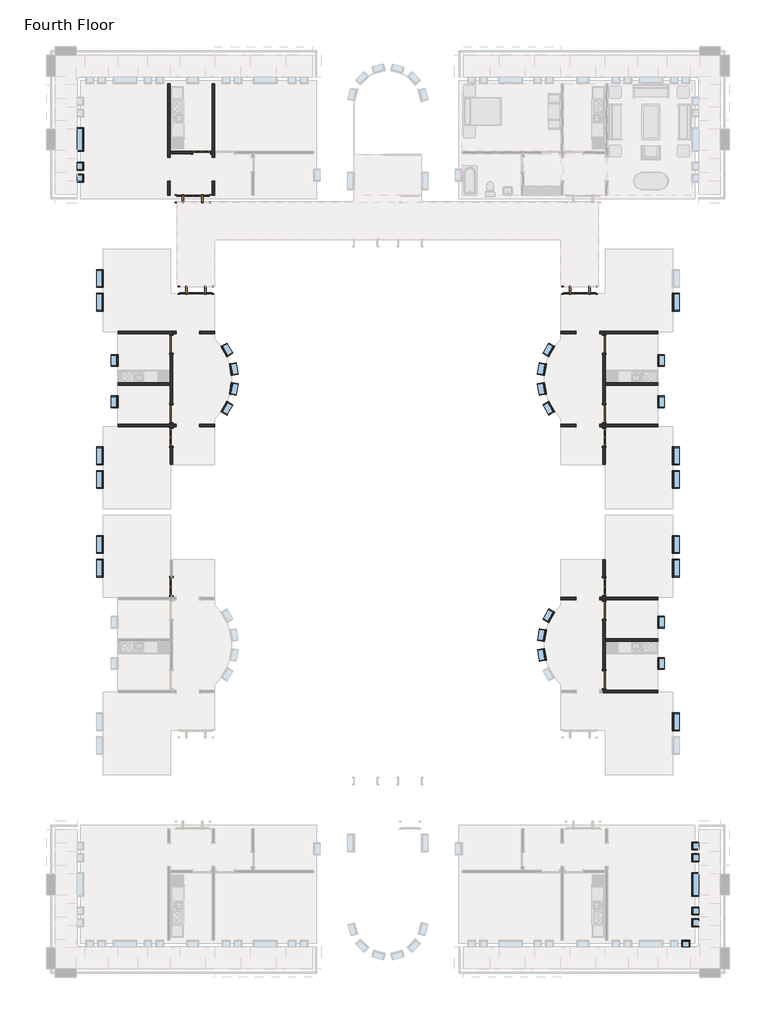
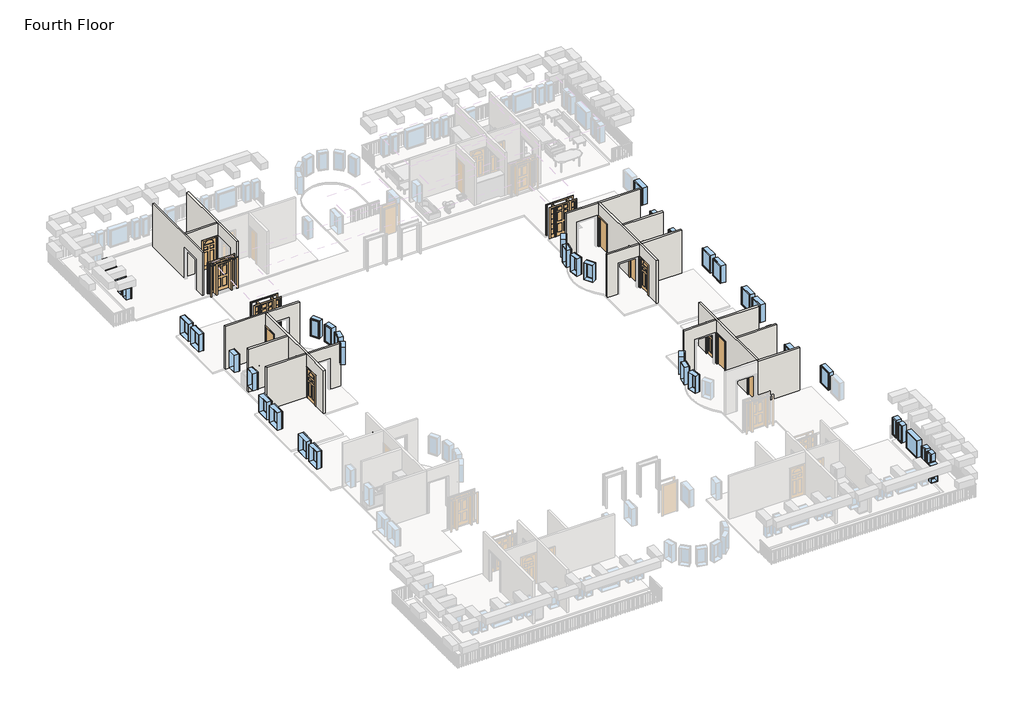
# One storey, part 2 of 5: 38 windows, 20 walls, 14 doors.
"""IFC4 building model written with IfcOpenShell, lengths in millimetres."""

from ifc_helpers import new_model, si_unit, frame, origin, place, context, project, spatial, polyline, outline, extrude, faceted_brep, transform, mapped, element, save
from components import door_829da954, door_2e3b4da2, door_a1797ceb, door_a3eb833a, door_dba5aa2e, door_ffdb1193, window_da97879f, window_d61ef850, window_60baf983, window_ed80354a, window_15c49d37, window_0e2fc6ce, window_d89bf842

model = new_model("IFC4")

# Units and contexts
model_context = context("Model", 3, world=origin())
ifc_project = project(units=[si_unit("LENGTHUNIT", "METRE", prefix="MILLI")], contexts=[model_context])

# Site, building, storey
site = spatial("IfcSite", under=ifc_project)
building = spatial("IfcBuilding", under=site)
storey = spatial("IfcBuildingStorey", under=building, Name="Fourth Floor", Elevation=9144.0)

# Doors
placement = place(None, origin())
door_shape = door_829da954(model_context)
element("IfcDoor", 1, ObjectType="Single-Decorative 2 : 36\" x 84\"", at=placement, inside=storey, context=model_context, shape_type="MappedRepresentation", body=[
    mapped(door_shape, transform((-3900.4589563, -7954.4808133, 9144.0), x_axis=(0.0, 1.0, 0.0), y_axis=(-1.0, 0.0, 0.0), z_axis=(0.0, 0.0, 1.0))),
])
element("IfcDoor", 2, ObjectType="Single-Decorative 2 : 36\" x 84\"", at=placement, inside=storey, context=model_context, shape_type="MappedRepresentation", body=[
    mapped(door_shape, transform((-26223.8839563, -15653.8558133, 9144.0), x_axis=(0.0, -1.0, 0.0), y_axis=(1.0, 0.0, 0.0), z_axis=(0.0, 0.0, 1.0))),
])
door_2_shape = door_2e3b4da2(model_context)
element("IfcDoor", 3, ObjectType="Single-Decorative 2 : 36\" x 84\"", at=placement, inside=storey, context=model_context, shape_type="MappedRepresentation", body=[
    mapped(door_2_shape, transform((-24674.4839563, 6723.5441867, 9144.0), x_axis=(1.0, 0.0, 0.0), y_axis=(0.0, 1.0, 0.0), z_axis=(0.0, 0.0, 1.0))),
])
element("IfcDoor", 4, ObjectType="Single-Decorative 2 : 36\" x 84\"", at=placement, inside=storey, context=model_context, shape_type="MappedRepresentation", body=[
    mapped(door_2_shape, transform((-26223.8839563, -7954.4808133, 9144.0), x_axis=(0.0, 1.0, 0.0), y_axis=(-1.0, 0.0, 0.0), z_axis=(0.0, 0.0, 1.0))),
])
element("IfcDoor", 5, ObjectType="Single-Decorative 2 : 36\" x 84\"", at=placement, inside=storey, context=model_context, shape_type="MappedRepresentation", body=[
    mapped(door_2_shape, transform((-3900.4589563, -15653.8558133, 9144.0), x_axis=(0.0, -1.0, 0.0), y_axis=(1.0, 0.0, 0.0), z_axis=(0.0, 0.0, 1.0))),
])
door_3_shape = door_a1797ceb(model_context)
element("IfcDoor", 6, ObjectType="Single-Flush : 36\" x 84\"", at=placement, inside=storey, context=model_context, shape_type="MappedRepresentation", body=[
    mapped(door_3_shape, transform((-3900.4589563, -6735.2808133, 9144.0), x_axis=(0.0, -1.0, 0.0), y_axis=(1.0, 0.0, 0.0), z_axis=(0.0, 0.0, 1.0))),
])
element("IfcDoor", 7, ObjectType="Single-Flush : 36\" x 84\"", at=placement, inside=storey, context=model_context, shape_type="MappedRepresentation", body=[
    mapped(door_3_shape, transform((-26223.8839563, -3157.0558133, 9144.0), x_axis=(0.0, 1.0, 0.0), y_axis=(-1.0, 0.0, 0.0), z_axis=(0.0, 0.0, 1.0))),
])
element("IfcDoor", 8, ObjectType="Single-Flush : 36\" x 84\"", at=placement, inside=storey, context=model_context, shape_type="MappedRepresentation", body=[
    mapped(door_3_shape, transform((-3900.4589563, -20451.2808133, 9144.0), x_axis=(0.0, -1.0, 0.0), y_axis=(1.0, 0.0, 0.0), z_axis=(0.0, 0.0, 1.0))),
])
door_4_shape = door_a3eb833a(model_context)
element("IfcDoor", 9, ObjectType="Single-Flush : 36\" x 84\"", at=placement, inside=storey, context=model_context, shape_type="MappedRepresentation", body=[
    mapped(door_4_shape, transform((-3900.4589563, -3157.0558133, 9144.0), x_axis=(0.0, 1.0, 0.0), y_axis=(-1.0, 0.0, 0.0), z_axis=(0.0, 0.0, 1.0))),
])
element("IfcDoor", 10, ObjectType="Single-Flush : 36\" x 84\"", at=placement, inside=storey, context=model_context, shape_type="MappedRepresentation", body=[
    mapped(door_4_shape, transform((-26223.8839563, -6735.2808133, 9144.0), x_axis=(0.0, -1.0, 0.0), y_axis=(1.0, 0.0, 0.0), z_axis=(0.0, 0.0, 1.0))),
])
element("IfcDoor", 11, ObjectType="Single-Flush : 36\" x 84\"", at=placement, inside=storey, context=model_context, shape_type="MappedRepresentation", body=[
    mapped(door_4_shape, transform((-3900.4589563, -16873.0558133, 9144.0), x_axis=(0.0, 1.0, 0.0), y_axis=(-1.0, 0.0, 0.0), z_axis=(0.0, 0.0, 1.0))),
])
door_5_shape = door_dba5aa2e(model_context)
element("IfcDoor", 12, ObjectType="Single-Raised Panel with Sidelights : 36\" x 84\"", at=placement, inside=storey, context=model_context, shape_type="MappedRepresentation", body=[
    mapped(door_5_shape, transform((-24968.1714563, -374.1683133, 9144.0), x_axis=(1.0, 0.0, 0.0), y_axis=(0.0, 1.0, 0.0), z_axis=(0.0, 0.0, 1.0))),
])
door_6_shape = door_ffdb1193(model_context)
element("IfcDoor", 13, ObjectType="Single-Raised Panel with Sidelights : 36\" x 84\"", at=placement, inside=storey, context=model_context, shape_type="MappedRepresentation", body=[
    mapped(door_6_shape, transform((-5156.1714563, -374.1683133, 9144.0), x_axis=(-1.0, 0.0, 0.0), y_axis=(0.0, -1.0, 0.0), z_axis=(0.0, 0.0, 1.0))),
])
element("IfcDoor", 14, ObjectType="Single-Raised Panel with Sidelights : 36\" x 84\"", at=placement, inside=storey, context=model_context, shape_type="MappedRepresentation", body=[
    mapped(door_6_shape, transform((-25131.6839563, 4350.2316867, 9144.0), x_axis=(1.0, 0.0, 0.0), y_axis=(0.0, 1.0, 0.0), z_axis=(0.0, 0.0, 1.0))),
])

# Walls
element("IfcWall", 15, ObjectType="Interior - 5\" Partition (2-hr)", at=placement, inside=storey, context=model_context, shape_type="Brep", body=[
    faceted_brep([(-1141.3839563, -2483.9558133, 9144.0), (-3963.9589563, -2483.9558133, 9144.0), (-3963.9589563, -2483.9558133, 12192.0), (-1141.3839563, -2483.9558133, 12192.0), (-1141.3839563, -2610.9558133, 9144.0), (-1141.3839563, -2610.9558133, 12192.0), (-3836.9589563, -2610.9558133, 12192.0), (-3963.9589563, -2610.9558133, 12192.0), (-3963.9589563, -2610.9558133, 9144.0), (-3836.9589563, -2610.9558133, 9144.0)], [[[0, 1, 2, 3]], [[4, 5, 6, 7, 8, 9]], [[1, 0, 4, 9, 8]], [[3, 2, 7, 6, 5]], [[2, 1, 8, 7]], [[0, 3, 5, 4]]]),
])
element("IfcWall", 16, ObjectType="Interior - 5\" Partition (2-hr)", at=placement, inside=storey, context=model_context, shape_type="Brep", body=[
    faceted_brep([(-3836.9589563, -7497.2808133, 11277.6), (-3836.9589563, -7497.2808133, 9144.0), (-3836.9589563, -7408.3808133, 9144.0), (-3836.9589563, -7281.3808133, 9144.0), (-3836.9589563, -7192.4808133, 9144.0), (-3836.9589563, -7192.4808133, 11277.6), (-3836.9589563, -6278.0808133, 11277.6), (-3836.9589563, -6278.0808133, 9144.0), (-3836.9589563, -5274.7808133, 9144.0), (-3836.9589563, -5147.7808133, 9144.0), (-3836.9589563, -3614.2558133, 9144.0), (-3836.9589563, -3614.2558133, 11277.6), (-3836.9589563, -2699.8558133, 11277.6), (-3836.9589563, -2699.8558133, 9144.0), (-3836.9589563, -2610.9558133, 9144.0), (-3836.9589563, -2610.9558133, 12192.0), (-3836.9589563, -5147.7808133, 12192.0), (-3836.9589563, -5274.7808133, 12192.0), (-3836.9589563, -7281.3808133, 12192.0), (-3836.9589563, -7408.3808133, 12192.0), (-3836.9589563, -9341.9558133, 12192.0), (-3836.9589563, -9341.9558133, 9144.0), (-3836.9589563, -8411.6808133, 9144.0), (-3836.9589563, -8411.6808133, 11277.6), (-3963.9589563, -7192.4808133, 9144.0), (-3963.9589563, -7281.3808133, 9144.0), (-3963.9589563, -7408.3808133, 9144.0), (-3963.9589563, -7497.2808133, 9144.0), (-3963.9589563, -7497.2808133, 11277.6), (-3963.9589563, -8411.6808133, 11277.6), (-3963.9589563, -8411.6808133, 9144.0), (-3963.9589563, -9341.9558133, 9144.0), (-3963.9589563, -9341.9558133, 12192.0), (-3963.9589563, -7408.3808133, 12192.0), (-3963.9589563, -7281.3808133, 12192.0), (-3963.9589563, -2610.9558133, 12192.0), (-3963.9589563, -2610.9558133, 9144.0), (-3963.9589563, -2699.8558133, 9144.0), (-3963.9589563, -2699.8558133, 11277.6), (-3963.9589563, -3614.2558133, 11277.6), (-3963.9589563, -3614.2558133, 9144.0), (-3963.9589563, -6278.0808133, 9144.0), (-3963.9589563, -6278.0808133, 11277.6), (-3963.9589563, -7192.4808133, 11277.6)], [[[0, 1, 2, 3, 4, 5, 6, 7, 8, 9, 10, 11, 12, 13, 14, 15, 16, 17, 18, 19, 20, 21, 22, 23]], [[24, 25, 26, 27, 28, 29, 30, 31, 32, 33, 34, 35, 36, 37, 38, 39, 40, 41, 42, 43]], [[14, 13, 37, 36]], [[4, 3, 2, 1, 27, 26, 25, 24]], [[41, 40, 10, 9, 8, 7]], [[22, 21, 31, 30]], [[20, 19, 18, 17, 16, 15, 35, 34, 33, 32]], [[15, 14, 36, 35]], [[21, 20, 32, 31]], [[38, 37, 13, 12]], [[39, 38, 12, 11]], [[40, 39, 11, 10]], [[5, 4, 24, 43]], [[6, 5, 43, 42]], [[7, 6, 42, 41]], [[28, 27, 1, 0]], [[29, 28, 0, 23]], [[30, 29, 23, 22]]]),
])
element("IfcWall", 17, ObjectType="Interior - 5\" Partition (2-hr)", at=placement, inside=storey, context=model_context, shape_type="SweptSolid", body=[
    extrude(outline(polyline([(-3836.9589563, -7281.3808133), (-1141.3839563, -7281.3808133), (-1141.3839563, -7408.3808133), (-3836.9589563, -7408.3808133), (-3836.9589563, -7281.3808133)])), frame((0.0, 0.0, 9144.0), z_axis=(0.0, 0.0, 1.0), x_axis=(1.0, 0.0, 0.0)), (0.0, 0.0, 1.0), 3048.0),
])
element("IfcWall", 18, ObjectType="Interior - 5\" Partition (2-hr)", at=placement, inside=storey, context=model_context, shape_type="SweptSolid", body=[
    extrude(outline(polyline([(-1141.3839563, -5274.7808133), (-3836.9589563, -5274.7808133), (-3836.9589563, -5147.7808133), (-1141.3839563, -5147.7808133), (-1141.3839563, -5274.7808133)])), frame((0.0, 0.0, 9144.0), z_axis=(0.0, 0.0, 1.0), x_axis=(1.0, 0.0, 0.0)), (0.0, 0.0, 1.0), 3048.0),
])
element("IfcWall", 19, ObjectType="Interior - 5\" Partition (2-hr)", at=placement, inside=storey, context=model_context, shape_type="SweptSolid", body=[
    extrude(outline(polyline([(9144.0, -6122.9589563), (9144.0, -5348.2589563), (11277.6, -5348.2589563), (11277.6, -4129.0589563), (9144.0, -4129.0589563), (9144.0, -3963.9589563), (12192.0, -3963.9589563), (12192.0, -6122.9589563), (9144.0, -6122.9589563)])), frame((0.0, -7408.3808133, 0.0), z_axis=(0.0, 1.0, 0.0), x_axis=(0.0, 0.0, 1.0)), (0.0, 0.0, 1.0), 127.0),
])
element("IfcWall", 20, ObjectType="Interior - 5\" Partition (2-hr)", at=placement, inside=storey, context=model_context, shape_type="SweptSolid", body=[
    extrude(outline(polyline([(11277.6, -4129.0589563), (9144.0, -4129.0589563), (9144.0, -3963.9589563), (12192.0, -3963.9589563), (12192.0, -6122.9589563), (9144.0, -6122.9589563), (9144.0, -5348.2589563), (11277.6, -5348.2589563), (11277.6, -4129.0589563)])), frame((0.0, -2610.9558133, 0.0), z_axis=(0.0, 1.0, 0.0), x_axis=(0.0, 0.0, 1.0)), (0.0, 0.0, 1.0), 127.0),
])
element("IfcWall", 21, ObjectType="Interior - 5\" Partition (2-hr)", at=placement, inside=storey, context=model_context, shape_type="Brep", body=[
    faceted_brep([(-26414.3839563, 10270.0191867, 9144.0), (-26414.3839563, 6483.8316867, 9144.0), (-26414.3839563, 6483.8316867, 11277.6), (-26414.3839563, 5264.6316867, 11277.6), (-26414.3839563, 5264.6316867, 9144.0), (-26414.3839563, 4526.4441867, 9144.0), (-26414.3839563, 4526.4441867, 12192.0), (-26414.3839563, 10270.0191867, 12192.0), (-26287.3839563, 6483.8316867, 11277.6), (-26287.3839563, 6483.8316867, 9144.0), (-26287.3839563, 6660.0441867, 9144.0), (-26287.3839563, 6787.0441867, 9144.0), (-26287.3839563, 10270.0191867, 9144.0), (-26287.3839563, 10270.0191867, 12192.0), (-26287.3839563, 6787.0441867, 12192.0), (-26287.3839563, 6660.0441867, 12192.0), (-26287.3839563, 4526.4441867, 12192.0), (-26287.3839563, 4526.4441867, 9144.0), (-26287.3839563, 5264.6316867, 9144.0), (-26287.3839563, 5264.6316867, 11277.6)], [[[0, 1, 2, 3, 4, 5, 6, 7]], [[8, 9, 10, 11, 12, 13, 14, 15, 16, 17, 18, 19]], [[12, 11, 10, 9, 1, 0]], [[18, 17, 5, 4]], [[7, 6, 16, 15, 14, 13]], [[0, 7, 13, 12]], [[6, 5, 17, 16]], [[4, 3, 19, 18]], [[2, 1, 9, 8]], [[3, 2, 8, 19]]]),
])
element("IfcWall", 22, ObjectType="Interior - 5\" Partition (2-hr)", at=placement, inside=storey, context=model_context, shape_type="Brep", body=[
    faceted_brep([(-24128.3839563, 5264.6316867, 11277.6), (-24128.3839563, 5264.6316867, 9144.0), (-24128.3839563, 4526.4441867, 9144.0), (-24128.3839563, 4526.4441867, 12192.0), (-24128.3839563, 6660.0441867, 12192.0), (-24128.3839563, 6787.0441867, 12192.0), (-24128.3839563, 10270.0191867, 12192.0), (-24128.3839563, 10270.0191867, 9144.0), (-24128.3839563, 6787.0441867, 9144.0), (-24128.3839563, 6660.0441867, 9144.0), (-24128.3839563, 6483.8316867, 9144.0), (-24128.3839563, 6483.8316867, 11277.6), (-24001.3839563, 4526.4441867, 9144.0), (-24001.3839563, 5264.6316867, 9144.0), (-24001.3839563, 5264.6316867, 11277.6), (-24001.3839563, 6483.8316867, 11277.6), (-24001.3839563, 6483.8316867, 9144.0), (-24001.3839563, 6660.0441867, 9144.0), (-24001.3839563, 6787.0441867, 9144.0), (-24001.3839563, 10270.0191867, 9144.0), (-24001.3839563, 10270.0191867, 12192.0), (-24001.3839563, 6787.0441867, 12192.0), (-24001.3839563, 6660.0441867, 12192.0), (-24001.3839563, 4526.4441867, 12192.0)], [[[0, 1, 2, 3, 4, 5, 6, 7, 8, 9, 10, 11]], [[12, 13, 14, 15, 16, 17, 18, 19, 20, 21, 22, 23]], [[2, 1, 13, 12]], [[10, 9, 8, 7, 19, 18, 17, 16]], [[6, 5, 4, 3, 23, 22, 21, 20]], [[7, 6, 20, 19]], [[3, 2, 12, 23]], [[16, 15, 11, 10]], [[14, 13, 1, 0]], [[15, 14, 0, 11]]]),
])
element("IfcWall", 23, ObjectType="Interior - 5\" Partition (2-hr)", at=placement, inside=storey, context=model_context, shape_type="SweptSolid", body=[
    extrude(outline(polyline([(11277.6, -24217.2839563), (9144.0, -24217.2839563), (9144.0, -24128.3839563), (12192.0, -24128.3839563), (12192.0, -26287.3839563), (9144.0, -26287.3839563), (9144.0, -25131.6839563), (11277.6, -25131.6839563), (11277.6, -24217.2839563)])), frame((0.0, 6660.0441867, 0.0), z_axis=(0.0, 1.0, 0.0), x_axis=(0.0, 0.0, 1.0)), (0.0, 0.0, 1.0), 127.0),
])
element("IfcWall", 24, ObjectType="Interior - 5\" Partition (2-hr)", at=placement, inside=storey, context=model_context, shape_type="Brep", body=[
    faceted_brep([(-28982.9589563, -2610.9558133, 9144.0), (-26287.3839563, -2610.9558133, 9144.0), (-26160.3839563, -2610.9558133, 9144.0), (-26160.3839563, -2610.9558133, 12192.0), (-26287.3839563, -2610.9558133, 12192.0), (-28982.9589563, -2610.9558133, 12192.0), (-28982.9589563, -2483.9558133, 9144.0), (-28982.9589563, -2483.9558133, 12192.0), (-26160.3839563, -2483.9558133, 12192.0), (-26160.3839563, -2483.9558133, 9144.0)], [[[0, 1, 2, 3, 4, 5]], [[6, 7, 8, 9]], [[2, 1, 0, 6, 9]], [[5, 4, 3, 8, 7]], [[3, 2, 9, 8]], [[0, 5, 7, 6]]]),
])
element("IfcWall", 25, ObjectType="Interior - 5\" Partition (2-hr)", at=placement, inside=storey, context=model_context, shape_type="Brep", body=[
    faceted_brep([(-26160.3839563, -7497.2808133, 11277.6), (-26160.3839563, -7497.2808133, 9144.0), (-26160.3839563, -7408.3808133, 9144.0), (-26160.3839563, -7281.3808133, 9144.0), (-26160.3839563, -7192.4808133, 9144.0), (-26160.3839563, -7192.4808133, 11277.6), (-26160.3839563, -6278.0808133, 11277.6), (-26160.3839563, -6278.0808133, 9144.0), (-26160.3839563, -3614.2558133, 9144.0), (-26160.3839563, -3614.2558133, 11277.6), (-26160.3839563, -2699.8558133, 11277.6), (-26160.3839563, -2699.8558133, 9144.0), (-26160.3839563, -2610.9558133, 9144.0), (-26160.3839563, -2610.9558133, 12192.0), (-26160.3839563, -7281.3808133, 12192.0), (-26160.3839563, -7408.3808133, 12192.0), (-26160.3839563, -9341.9558133, 12192.0), (-26160.3839563, -9341.9558133, 9144.0), (-26160.3839563, -8411.6808133, 9144.0), (-26160.3839563, -8411.6808133, 11277.6), (-26287.3839563, -7192.4808133, 9144.0), (-26287.3839563, -7281.3808133, 9144.0), (-26287.3839563, -7408.3808133, 9144.0), (-26287.3839563, -7497.2808133, 9144.0), (-26287.3839563, -7497.2808133, 11277.6), (-26287.3839563, -8411.6808133, 11277.6), (-26287.3839563, -8411.6808133, 9144.0), (-26287.3839563, -9341.9558133, 9144.0), (-26287.3839563, -9341.9558133, 12192.0), (-26287.3839563, -7408.3808133, 12192.0), (-26287.3839563, -7281.3808133, 12192.0), (-26287.3839563, -5274.7808133, 12192.0), (-26287.3839563, -5147.7808133, 12192.0), (-26287.3839563, -2610.9558133, 12192.0), (-26287.3839563, -2610.9558133, 9144.0), (-26287.3839563, -2699.8558133, 9144.0), (-26287.3839563, -2699.8558133, 11277.6), (-26287.3839563, -3614.2558133, 11277.6), (-26287.3839563, -3614.2558133, 9144.0), (-26287.3839563, -5147.7808133, 9144.0), (-26287.3839563, -5274.7808133, 9144.0), (-26287.3839563, -6278.0808133, 9144.0), (-26287.3839563, -6278.0808133, 11277.6), (-26287.3839563, -7192.4808133, 11277.6)], [[[0, 1, 2, 3, 4, 5, 6, 7, 8, 9, 10, 11, 12, 13, 14, 15, 16, 17, 18, 19]], [[20, 21, 22, 23, 24, 25, 26, 27, 28, 29, 30, 31, 32, 33, 34, 35, 36, 37, 38, 39, 40, 41, 42, 43]], [[12, 11, 35, 34]], [[4, 3, 2, 1, 23, 22, 21, 20]], [[41, 40, 39, 38, 8, 7]], [[18, 17, 27, 26]], [[16, 15, 14, 13, 33, 32, 31, 30, 29, 28]], [[13, 12, 34, 33]], [[17, 16, 28, 27]], [[36, 35, 11, 10]], [[37, 36, 10, 9]], [[38, 37, 9, 8]], [[5, 4, 20, 43]], [[6, 5, 43, 42]], [[7, 6, 42, 41]], [[24, 23, 1, 0]], [[25, 24, 0, 19]], [[26, 25, 19, 18]]]),
])
element("IfcWall", 26, ObjectType="Interior - 5\" Partition (2-hr)", at=placement, inside=storey, context=model_context, shape_type="SweptSolid", body=[
    extrude(outline(polyline([(-26287.3839563, -7408.3808133), (-28982.9589563, -7408.3808133), (-28982.9589563, -7281.3808133), (-26287.3839563, -7281.3808133), (-26287.3839563, -7408.3808133)])), frame((0.0, 0.0, 9144.0), z_axis=(0.0, 0.0, 1.0), x_axis=(1.0, 0.0, 0.0)), (0.0, 0.0, 1.0), 3048.0),
])
element("IfcWall", 27, ObjectType="Interior - 5\" Partition (2-hr)", at=placement, inside=storey, context=model_context, shape_type="SweptSolid", body=[
    extrude(outline(polyline([(-28982.9589563, -5147.7808133), (-26287.3839563, -5147.7808133), (-26287.3839563, -5274.7808133), (-28982.9589563, -5274.7808133), (-28982.9589563, -5147.7808133)])), frame((0.0, 0.0, 9144.0), z_axis=(0.0, 0.0, 1.0), x_axis=(1.0, 0.0, 0.0)), (0.0, 0.0, 1.0), 3048.0),
])
element("IfcWall", 28, ObjectType="Interior - 5\" Partition (2-hr)", at=placement, inside=storey, context=model_context, shape_type="SweptSolid", body=[
    extrude(outline(polyline([(11277.6, -24776.0839563), (9144.0, -24776.0839563), (9144.0, -24001.3839563), (12192.0, -24001.3839563), (12192.0, -26160.3839563), (9144.0, -26160.3839563), (9144.0, -25995.2839563), (11277.6, -25995.2839563), (11277.6, -24776.0839563)])), frame((0.0, -7408.3808133, 0.0), z_axis=(0.0, 1.0, 0.0), x_axis=(0.0, 0.0, 1.0)), (0.0, 0.0, 1.0), 127.0),
])
element("IfcWall", 29, ObjectType="Interior - 5\" Partition (2-hr)", at=placement, inside=storey, context=model_context, shape_type="SweptSolid", body=[
    extrude(outline(polyline([(9144.0, -26160.3839563), (9144.0, -25995.2839563), (11277.6, -25995.2839563), (11277.6, -24776.0839563), (9144.0, -24776.0839563), (9144.0, -24001.3839563), (12192.0, -24001.3839563), (12192.0, -26160.3839563), (9144.0, -26160.3839563)])), frame((0.0, -2610.9558133, 0.0), z_axis=(0.0, 1.0, 0.0), x_axis=(0.0, 0.0, 1.0)), (0.0, 0.0, 1.0), 127.0),
])
element("IfcWall", 30, ObjectType="Interior - 5\" Partition (2-hr)", at=placement, inside=storey, context=model_context, shape_type="Brep", body=[
    faceted_brep([(-1141.3839563, -20997.3808133, 9144.0), (-3836.9589563, -20997.3808133, 9144.0), (-3963.9589563, -20997.3808133, 9144.0), (-3963.9589563, -20997.3808133, 12192.0), (-3836.9589563, -20997.3808133, 12192.0), (-1141.3839563, -20997.3808133, 12192.0), (-1141.3839563, -21124.3808133, 9144.0), (-1141.3839563, -21124.3808133, 12192.0), (-3963.9589563, -21124.3808133, 12192.0), (-3963.9589563, -21124.3808133, 9144.0)], [[[0, 1, 2, 3, 4, 5]], [[6, 7, 8, 9]], [[2, 1, 0, 6, 9]], [[5, 4, 3, 8, 7]], [[3, 2, 9, 8]], [[0, 5, 7, 6]]]),
])
element("IfcWall", 31, ObjectType="Interior - 5\" Partition (2-hr)", at=placement, inside=storey, context=model_context, shape_type="Brep", body=[
    faceted_brep([(-3963.9589563, -16111.0558133, 11277.6), (-3963.9589563, -16111.0558133, 9144.0), (-3963.9589563, -16199.9558133, 9144.0), (-3963.9589563, -16326.9558133, 9144.0), (-3963.9589563, -16415.8558133, 9144.0), (-3963.9589563, -16415.8558133, 11277.6), (-3963.9589563, -17330.2558133, 11277.6), (-3963.9589563, -17330.2558133, 9144.0), (-3963.9589563, -19994.0808133, 9144.0), (-3963.9589563, -19994.0808133, 11277.6), (-3963.9589563, -20908.4808133, 11277.6), (-3963.9589563, -20908.4808133, 9144.0), (-3963.9589563, -20997.3808133, 9144.0), (-3963.9589563, -20997.3808133, 12192.0), (-3963.9589563, -16326.9558133, 12192.0), (-3963.9589563, -16199.9558133, 12192.0), (-3963.9589563, -14266.3808133, 12192.0), (-3963.9589563, -14266.3808133, 9144.0), (-3963.9589563, -15196.6558133, 9144.0), (-3963.9589563, -15196.6558133, 11277.6), (-3836.9589563, -16415.8558133, 9144.0), (-3836.9589563, -16326.9558133, 9144.0), (-3836.9589563, -16199.9558133, 9144.0), (-3836.9589563, -16111.0558133, 9144.0), (-3836.9589563, -16111.0558133, 11277.6), (-3836.9589563, -15196.6558133, 11277.6), (-3836.9589563, -15196.6558133, 9144.0), (-3836.9589563, -14266.3808133, 9144.0), (-3836.9589563, -14266.3808133, 12192.0), (-3836.9589563, -16199.9558133, 12192.0), (-3836.9589563, -16326.9558133, 12192.0), (-3836.9589563, -18333.5558133, 12192.0), (-3836.9589563, -18460.5558133, 12192.0), (-3836.9589563, -20997.3808133, 12192.0), (-3836.9589563, -20997.3808133, 9144.0), (-3836.9589563, -20908.4808133, 9144.0), (-3836.9589563, -20908.4808133, 11277.6), (-3836.9589563, -19994.0808133, 11277.6), (-3836.9589563, -19994.0808133, 9144.0), (-3836.9589563, -18460.5558133, 9144.0), (-3836.9589563, -18333.5558133, 9144.0), (-3836.9589563, -17330.2558133, 9144.0), (-3836.9589563, -17330.2558133, 11277.6), (-3836.9589563, -16415.8558133, 11277.6)], [[[0, 1, 2, 3, 4, 5, 6, 7, 8, 9, 10, 11, 12, 13, 14, 15, 16, 17, 18, 19]], [[20, 21, 22, 23, 24, 25, 26, 27, 28, 29, 30, 31, 32, 33, 34, 35, 36, 37, 38, 39, 40, 41, 42, 43]], [[12, 11, 35, 34]], [[4, 3, 2, 1, 23, 22, 21, 20]], [[41, 40, 39, 38, 8, 7]], [[18, 17, 27, 26]], [[16, 15, 14, 13, 33, 32, 31, 30, 29, 28]], [[13, 12, 34, 33]], [[17, 16, 28, 27]], [[36, 35, 11, 10]], [[37, 36, 10, 9]], [[38, 37, 9, 8]], [[5, 4, 20, 43]], [[6, 5, 43, 42]], [[7, 6, 42, 41]], [[24, 23, 1, 0]], [[25, 24, 0, 19]], [[26, 25, 19, 18]]]),
])
element("IfcWall", 32, ObjectType="Interior - 5\" Partition (2-hr)", at=placement, inside=storey, context=model_context, shape_type="SweptSolid", body=[
    extrude(outline(polyline([(-3836.9589563, -16199.9558133), (-1141.3839563, -16199.9558133), (-1141.3839563, -16326.9558133), (-3836.9589563, -16326.9558133), (-3836.9589563, -16199.9558133)])), frame((0.0, 0.0, 9144.0), z_axis=(0.0, 0.0, 1.0), x_axis=(1.0, 0.0, 0.0)), (0.0, 0.0, 1.0), 3048.0),
])
element("IfcWall", 33, ObjectType="Interior - 5\" Partition (2-hr)", at=placement, inside=storey, context=model_context, shape_type="SweptSolid", body=[
    extrude(outline(polyline([(-1141.3839563, -18460.5558133), (-3836.9589563, -18460.5558133), (-3836.9589563, -18333.5558133), (-1141.3839563, -18333.5558133), (-1141.3839563, -18460.5558133)])), frame((0.0, 0.0, 9144.0), z_axis=(0.0, 0.0, 1.0), x_axis=(1.0, 0.0, 0.0)), (0.0, 0.0, 1.0), 3048.0),
])
element("IfcWall", 34, ObjectType="Interior - 5\" Partition (2-hr)", at=placement, inside=storey, context=model_context, shape_type="SweptSolid", body=[
    extrude(outline(polyline([(9144.0, -6122.9589563), (9144.0, -5348.2589563), (11277.6, -5348.2589563), (11277.6, -4129.0589563), (9144.0, -4129.0589563), (9144.0, -3963.9589563), (12192.0, -3963.9589563), (12192.0, -6122.9589563), (9144.0, -6122.9589563)])), frame((0.0, -16326.9558133, 0.0), z_axis=(0.0, 1.0, 0.0), x_axis=(0.0, 0.0, 1.0)), (0.0, 0.0, 1.0), 127.0),
])

# Windows
window_shape = window_da97879f(model_context)
element("IfcWindow", 35, ObjectType="Fixed : 16\" x 48\"", at=placement, inside=storey, context=model_context, shape_type="MappedRepresentation", body=[
    mapped(window_shape, transform((-30922.8839563, 5378.9316867, 9144.0), x_axis=(0.0, -1.0, 0.0), y_axis=(1.0, 0.0, 0.0), z_axis=(0.0, 0.0, 1.0))),
])
element("IfcWindow", 36, ObjectType="Fixed : 16\" x 48\"", at=placement, inside=storey, context=model_context, shape_type="MappedRepresentation", body=[
    mapped(window_shape, transform((-30922.8839563, 5988.5316867, 9144.0), x_axis=(0.0, -1.0, 0.0), y_axis=(1.0, 0.0, 0.0), z_axis=(0.0, 0.0, 1.0))),
])
element("IfcWindow", 37, ObjectType="Fixed : 16\" x 48\"", at=placement, inside=storey, context=model_context, shape_type="MappedRepresentation", body=[
    mapped(window_shape, transform((354.0410437, -34054.5683133, 9144.0), x_axis=(1.0, 0.0, 0.0), y_axis=(0.0, 1.0, 0.0), z_axis=(0.0, 0.0, 1.0))),
])
element("IfcWindow", 38, ObjectType="Fixed : 16\" x 48\"", at=placement, inside=storey, context=model_context, shape_type="MappedRepresentation", body=[
    mapped(window_shape, transform((798.5410437, -28987.2683133, 9144.0), x_axis=(0.0, 1.0, 0.0), y_axis=(-1.0, 0.0, 0.0), z_axis=(0.0, 0.0, 1.0))),
])
element("IfcWindow", 39, ObjectType="Fixed : 16\" x 48\"", at=placement, inside=storey, context=model_context, shape_type="MappedRepresentation", body=[
    mapped(window_shape, transform((798.5410437, -29596.8683133, 9144.0), x_axis=(0.0, 1.0, 0.0), y_axis=(-1.0, 0.0, 0.0), z_axis=(0.0, 0.0, 1.0))),
])
window_2_shape = window_d61ef850(model_context)
element("IfcWindow", 40, ObjectType="Fixed : 16\" x 48\"", at=placement, inside=storey, context=model_context, shape_type="MappedRepresentation", body=[
    mapped(window_2_shape, transform((798.5410437, -33025.8683133, 9144.0), x_axis=(0.0, -1.0, 0.0), y_axis=(1.0, 0.0, 0.0), z_axis=(0.0, 0.0, 1.0))),
])
element("IfcWindow", 41, ObjectType="Fixed : 16\" x 48\"", at=placement, inside=storey, context=model_context, shape_type="MappedRepresentation", body=[
    mapped(window_2_shape, transform((798.5410437, -32416.2683133, 9144.0), x_axis=(0.0, -1.0, 0.0), y_axis=(1.0, 0.0, 0.0), z_axis=(0.0, 0.0, 1.0))),
])
window_3_shape = window_60baf983(model_context)
element("IfcWindow", 42, ObjectType="Fixed : 24\" x 48\"", at=placement, inside=storey, context=model_context, shape_type="MappedRepresentation", body=[
    mapped(window_3_shape, transform((-6775.1467215, -3474.0215337, 9144.0), x_axis=(-0.496191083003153, -0.868213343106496, 0.0), y_axis=(0.868213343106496, -0.496191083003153, 0.0), z_axis=(0.0, 0.0, 1.0))),
])
element("IfcWindow", 43, ObjectType="Fixed : 24\" x 48\"", at=placement, inside=storey, context=model_context, shape_type="MappedRepresentation", body=[
    mapped(window_3_shape, transform((-7118.4751134, -4468.822297, 9144.0), x_axis=(-0.16973229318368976, -0.9854902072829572, 0.0), y_axis=(0.9854902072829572, -0.16973229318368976, 0.0), z_axis=(0.0, 0.0, 1.0))),
])
element("IfcWindow", 44, ObjectType="Fixed : 24\" x 48\"", at=placement, inside=storey, context=model_context, shape_type="MappedRepresentation", body=[
    mapped(window_3_shape, transform((-29159.1714563, -4030.1808133, 9144.0), x_axis=(0.0, -1.0, 0.0), y_axis=(1.0, 0.0, 0.0), z_axis=(0.0, 0.0, 1.0))),
])
element("IfcWindow", 45, ObjectType="Fixed : 24\" x 48\"", at=placement, inside=storey, context=model_context, shape_type="MappedRepresentation", body=[
    mapped(window_3_shape, transform((-29159.1714563, -6163.7808133, 9144.0), x_axis=(0.0, -1.0, 0.0), y_axis=(1.0, 0.0, 0.0), z_axis=(0.0, 0.0, 1.0))),
])
element("IfcWindow", 46, ObjectType="Fixed : 24\" x 48\"", at=placement, inside=storey, context=model_context, shape_type="MappedRepresentation", body=[
    mapped(window_3_shape, transform((-23350.7429238, -6417.4311225, 9144.0), x_axis=(0.49619108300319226, 0.8682133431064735, 0.0), y_axis=(-0.8682133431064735, 0.49619108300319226, 0.0), z_axis=(0.0, 0.0, 1.0))),
])
element("IfcWindow", 47, ObjectType="Fixed : 24\" x 48\"", at=placement, inside=storey, context=model_context, shape_type="MappedRepresentation", body=[
    mapped(window_3_shape, transform((-23007.6234621, -5423.2119495, 9144.0), x_axis=(0.1697322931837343, 0.9854902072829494, 0.0), y_axis=(-0.9854902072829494, 0.1697322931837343, 0.0), z_axis=(0.0, 0.0, 1.0))),
])
element("IfcWindow", 48, ObjectType="Fixed : 24\" x 48\"", at=placement, inside=storey, context=model_context, shape_type="MappedRepresentation", body=[
    mapped(window_3_shape, transform((-965.1714563, -19578.1558133, 9144.0), x_axis=(0.0, 1.0, 0.0), y_axis=(-1.0, 0.0, 0.0), z_axis=(0.0, 0.0, 1.0))),
])
element("IfcWindow", 49, ObjectType="Fixed : 24\" x 48\"", at=placement, inside=storey, context=model_context, shape_type="MappedRepresentation", body=[
    mapped(window_3_shape, transform((-965.1714563, -17444.5558133, 9144.0), x_axis=(0.0, 1.0, 0.0), y_axis=(-1.0, 0.0, 0.0), z_axis=(0.0, 0.0, 1.0))),
])
element("IfcWindow", 50, ObjectType="Fixed : 24\" x 48\"", at=placement, inside=storey, context=model_context, shape_type="MappedRepresentation", body=[
    mapped(window_3_shape, transform((-6773.5999888, -17190.9055042, 9144.0), x_axis=(-0.4961910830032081, -0.8682133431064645, 0.0), y_axis=(0.8682133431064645, -0.4961910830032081, 0.0), z_axis=(0.0, 0.0, 1.0))),
])
element("IfcWindow", 51, ObjectType="Fixed : 24\" x 48\"", at=placement, inside=storey, context=model_context, shape_type="MappedRepresentation", body=[
    mapped(window_3_shape, transform((-7116.7194505, -18185.1246771, 9144.0), x_axis=(-0.16973229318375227, -0.9854902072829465, 0.0), y_axis=(0.9854902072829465, -0.16973229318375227, 0.0), z_axis=(0.0, 0.0, 1.0))),
])
window_4_shape = window_ed80354a(model_context)
element("IfcWindow", 52, ObjectType="Fixed : 24\" x 48\"", at=placement, inside=storey, context=model_context, shape_type="MappedRepresentation", body=[
    mapped(window_4_shape, transform((-965.1714563, -4030.1808133, 9144.0), x_axis=(0.0, -1.0, 0.0), y_axis=(1.0, 0.0, 0.0), z_axis=(0.0, 0.0, 1.0))),
])
element("IfcWindow", 53, ObjectType="Fixed : 24\" x 48\"", at=placement, inside=storey, context=model_context, shape_type="MappedRepresentation", body=[
    mapped(window_4_shape, transform((-965.1714563, -6163.7808133, 9144.0), x_axis=(0.0, -1.0, 0.0), y_axis=(1.0, 0.0, 0.0), z_axis=(0.0, 0.0, 1.0))),
])
element("IfcWindow", 54, ObjectType="Fixed : 24\" x 48\"", at=placement, inside=storey, context=model_context, shape_type="MappedRepresentation", body=[
    mapped(window_4_shape, transform((-6775.1467215, -6418.3150929, 9144.0), x_axis=(-0.49619108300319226, 0.8682133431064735, 0.0), y_axis=(-0.8682133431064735, -0.49619108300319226, 0.0), z_axis=(0.0, 0.0, 1.0))),
])
element("IfcWindow", 55, ObjectType="Fixed : 24\" x 48\"", at=placement, inside=storey, context=model_context, shape_type="MappedRepresentation", body=[
    mapped(window_4_shape, transform((-7118.4751134, -5423.5143296, 9144.0), x_axis=(-0.1697322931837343, 0.9854902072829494, 0.0), y_axis=(-0.9854902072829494, -0.1697322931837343, 0.0), z_axis=(0.0, 0.0, 1.0))),
])
element("IfcWindow", 56, ObjectType="Fixed : 24\" x 48\"", at=placement, inside=storey, context=model_context, shape_type="MappedRepresentation", body=[
    mapped(window_4_shape, transform((-23350.7429238, -3474.9055042, 9144.0), x_axis=(0.496191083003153, -0.868213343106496, 0.0), y_axis=(0.868213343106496, 0.496191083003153, 0.0), z_axis=(0.0, 0.0, 1.0))),
])
element("IfcWindow", 57, ObjectType="Fixed : 24\" x 48\"", at=placement, inside=storey, context=model_context, shape_type="MappedRepresentation", body=[
    mapped(window_4_shape, transform((-23007.6234621, -4469.1246771, 9144.0), x_axis=(0.16973229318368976, -0.9854902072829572, 0.0), y_axis=(0.9854902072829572, 0.16973229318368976, 0.0), z_axis=(0.0, 0.0, 1.0))),
])
element("IfcWindow", 58, ObjectType="Fixed : 24\" x 48\"", at=placement, inside=storey, context=model_context, shape_type="MappedRepresentation", body=[
    mapped(window_4_shape, transform((-7116.7194505, -19139.2119495, 9144.0), x_axis=(-0.1697322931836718, 0.9854902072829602, 0.0), y_axis=(-0.9854902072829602, -0.1697322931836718, 0.0), z_axis=(0.0, 0.0, 1.0))),
])
window_5_shape = window_15c49d37(model_context)
element("IfcWindow", 59, ObjectType="Fixed : 36\" x 48\"", at=placement, inside=storey, context=model_context, shape_type="MappedRepresentation", body=[
    mapped(window_5_shape, transform((-29921.1714563, -10165.8683133, 9144.0), x_axis=(0.0, -1.0, 0.0), y_axis=(1.0, 0.0, 0.0), z_axis=(0.0, 0.0, 1.0))),
])
element("IfcWindow", 60, ObjectType="Fixed : 36\" x 48\"", at=placement, inside=storey, context=model_context, shape_type="MappedRepresentation", body=[
    mapped(window_5_shape, transform((-29921.1714563, -8946.6683133, 9144.0), x_axis=(0.0, -1.0, 0.0), y_axis=(1.0, 0.0, 0.0), z_axis=(0.0, 0.0, 1.0))),
])
element("IfcWindow", 61, ObjectType="Fixed : 36\" x 48\"", at=placement, inside=storey, context=model_context, shape_type="MappedRepresentation", body=[
    mapped(window_5_shape, transform((-29921.1714563, 197.3316867, 9144.0), x_axis=(0.0, -1.0, 0.0), y_axis=(1.0, 0.0, 0.0), z_axis=(0.0, 0.0, 1.0))),
])
element("IfcWindow", 62, ObjectType="Fixed : 36\" x 48\"", at=placement, inside=storey, context=model_context, shape_type="MappedRepresentation", body=[
    mapped(window_5_shape, transform((-29921.1714563, -1021.8683133, 9144.0), x_axis=(0.0, -1.0, 0.0), y_axis=(1.0, 0.0, 0.0), z_axis=(0.0, 0.0, 1.0))),
])
element("IfcWindow", 63, ObjectType="Fixed : 36\" x 48\"", at=placement, inside=storey, context=model_context, shape_type="MappedRepresentation", body=[
    mapped(window_5_shape, transform((-203.1714563, -13442.4683133, 9144.0), x_axis=(0.0, 1.0, 0.0), y_axis=(-1.0, 0.0, 0.0), z_axis=(0.0, 0.0, 1.0))),
])
element("IfcWindow", 64, ObjectType="Fixed : 36\" x 48\"", at=placement, inside=storey, context=model_context, shape_type="MappedRepresentation", body=[
    mapped(window_5_shape, transform((-203.1714563, -14661.6683133, 9144.0), x_axis=(0.0, 1.0, 0.0), y_axis=(-1.0, 0.0, 0.0), z_axis=(0.0, 0.0, 1.0))),
])
element("IfcWindow", 65, ObjectType="Fixed : 36\" x 48\"", at=placement, inside=storey, context=model_context, shape_type="MappedRepresentation", body=[
    mapped(window_5_shape, transform((-203.1714563, -22586.4683133, 9144.0), x_axis=(0.0, 1.0, 0.0), y_axis=(-1.0, 0.0, 0.0), z_axis=(0.0, 0.0, 1.0))),
])
window_6_shape = window_0e2fc6ce(model_context)
element("IfcWindow", 66, ObjectType="Fixed : 36\" x 48\"", at=placement, inside=storey, context=model_context, shape_type="MappedRepresentation", body=[
    mapped(window_6_shape, transform((-203.1714563, -10165.8683133, 9144.0), x_axis=(0.0, -1.0, 0.0), y_axis=(1.0, 0.0, 0.0), z_axis=(0.0, 0.0, 1.0))),
])
element("IfcWindow", 67, ObjectType="Fixed : 36\" x 48\"", at=placement, inside=storey, context=model_context, shape_type="MappedRepresentation", body=[
    mapped(window_6_shape, transform((-203.1714563, -8946.6683133, 9144.0), x_axis=(0.0, -1.0, 0.0), y_axis=(1.0, 0.0, 0.0), z_axis=(0.0, 0.0, 1.0))),
])
element("IfcWindow", 68, ObjectType="Fixed : 36\" x 48\"", at=placement, inside=storey, context=model_context, shape_type="MappedRepresentation", body=[
    mapped(window_6_shape, transform((-203.1714563, -1021.8683133, 9144.0), x_axis=(0.0, -1.0, 0.0), y_axis=(1.0, 0.0, 0.0), z_axis=(0.0, 0.0, 1.0))),
])
element("IfcWindow", 69, ObjectType="Fixed : 36\" x 48\"", at=placement, inside=storey, context=model_context, shape_type="MappedRepresentation", body=[
    mapped(window_6_shape, transform((-29921.1714563, -13442.4683133, 9144.0), x_axis=(0.0, 1.0, 0.0), y_axis=(-1.0, 0.0, 0.0), z_axis=(0.0, 0.0, 1.0))),
])
element("IfcWindow", 70, ObjectType="Fixed : 36\" x 48\"", at=placement, inside=storey, context=model_context, shape_type="MappedRepresentation", body=[
    mapped(window_6_shape, transform((-29921.1714563, -14661.6683133, 9144.0), x_axis=(0.0, 1.0, 0.0), y_axis=(-1.0, 0.0, 0.0), z_axis=(0.0, 0.0, 1.0))),
])
window_7_shape = window_d89bf842(model_context)
element("IfcWindow", 71, ObjectType="Fixed : 48\" x 48\"", at=placement, inside=storey, context=model_context, shape_type="MappedRepresentation", body=[
    mapped(window_7_shape, transform((-30922.8839563, 7436.3316867, 9144.0), x_axis=(0.0, 1.0, 0.0), y_axis=(-1.0, 0.0, 0.0), z_axis=(0.0, 0.0, 1.0))),
])
element("IfcWindow", 72, ObjectType="Fixed : 48\" x 48\"", at=placement, inside=storey, context=model_context, shape_type="MappedRepresentation", body=[
    mapped(window_7_shape, transform((798.5410437, -31044.6683133, 9144.0), x_axis=(0.0, -1.0, 0.0), y_axis=(1.0, 0.0, 0.0), z_axis=(0.0, 0.0, 1.0))),
])

save(model, "model.ifc")
